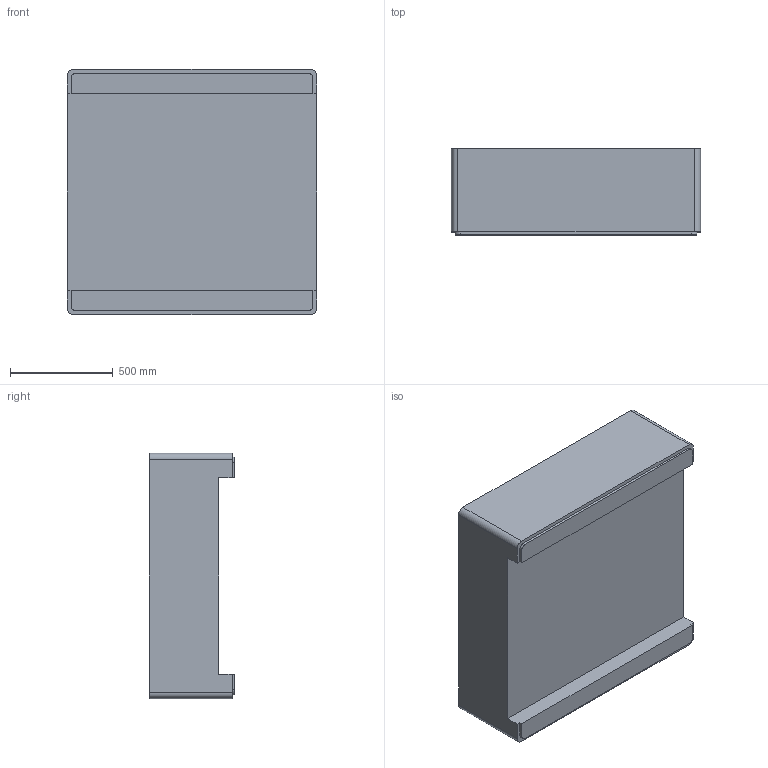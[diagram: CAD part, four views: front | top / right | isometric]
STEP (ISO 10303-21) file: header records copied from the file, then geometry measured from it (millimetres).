
FILE_DESCRIPTION (( 'STEP AP214' ), '1' );
FILE_NAME ('14FV Block Model.STEP', '2013-06-03T14:39:29', ( 'Bryant Conder' ), ( '' ), 'SwSTEP 2.0', 'SolidWorks 2013', '' );
FILE_SCHEMA (( 'AUTOMOTIVE_DESIGN' ));
Length unit declared in the file: inch
Products named in the file (1): 14FV Block Model
Bounding box: 1212.86 x 416.71 x 1193.8 mm (x, y, z)
Volume: 90679221.2 mm3; surface area: 6230520.5 mm2
Topology: 1 solids, 1 shells, 63 faces, 164 edges, 96 vertices
Faces by surface type: plane 31, cylinder 24, sphere 8
Entity records: 1886 total; most frequent: DIRECTION 332, CARTESIAN_POINT 316, ORIENTED_EDGE 312, EDGE_CURVE 156, AXIS2_PLACEMENT_3D 112, LINE 108, VECTOR 108, VERTEX_POINT 96
